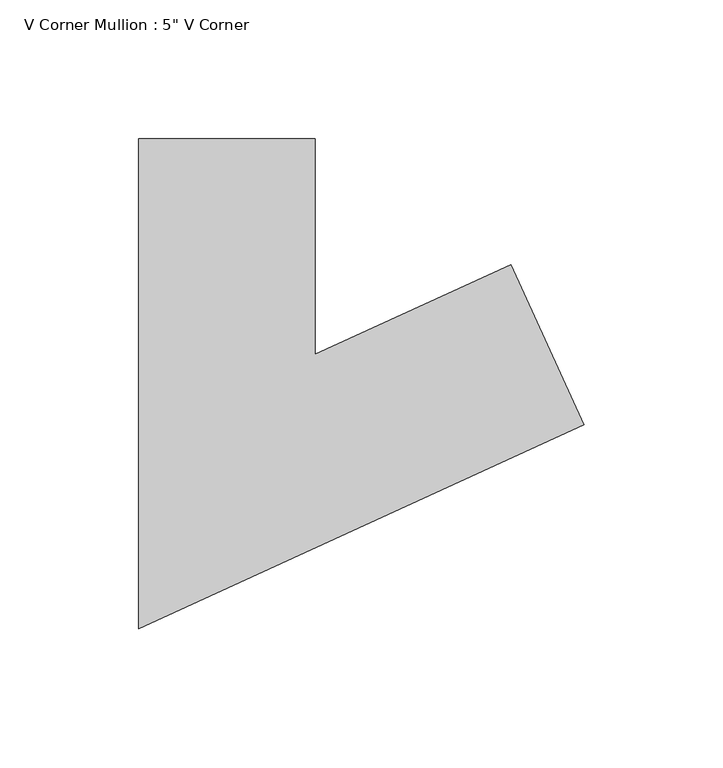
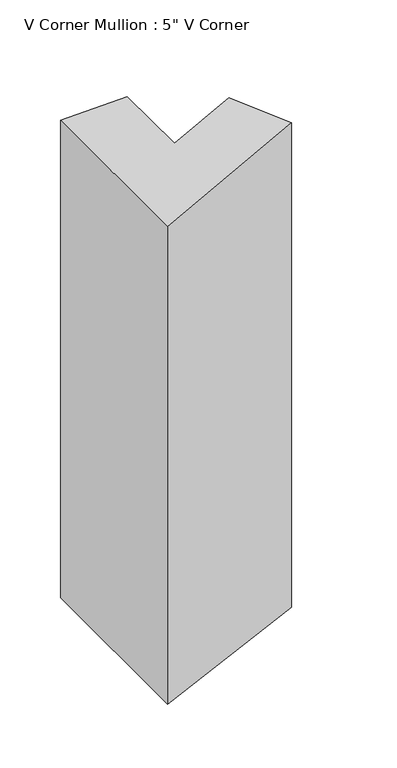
"""IFC4 building model written with IfcOpenShell, lengths in millimetres: member geometry."""

from ifc_helpers import new_model, si_unit, origin, place, context, project, spatial, faceted_brep, source, transform, mapped, element, save


def member_515de703(model_context):
    return source(origin(), model_context, "Body", "Brep", [
        faceted_brep([(61.49523, 18.2208415, 1.4130597), (87.9205542, -39.5195451, 2.0202703), (87.9205542, -39.5195451, -484.8655243), (61.49523, 18.2208415, -484.3241999), (-9.0228811, -14.0523047, -0.207331), (-9.0228811, -14.0523047, -482.8796321), (-9.0228811, 63.5, -0.207331), (-9.0228811, 63.5, -482.8796321), (-72.5228811, 63.5, -1.666457), (-72.5228811, 63.5, -481.5788308), (-72.5228811, -112.9476953, -1.666457), (-72.5228811, -112.9476953, -481.5788308)], [[[0, 1, 2, 3]], [[4, 0, 3, 5]], [[6, 4, 5, 7]], [[8, 6, 7, 9]], [[10, 8, 9, 11]], [[1, 10, 11, 2]], [[1, 0, 4, 6, 8, 10]], [[2, 11, 9, 7, 5, 3]]]),
    ])


if __name__ == "__main__":
    model = new_model("IFC4")
    model_context = context("Model", 3, world=origin())
    ifc_project = project(units=[si_unit("LENGTHUNIT", "METRE", prefix="MILLI")], contexts=[model_context])
    site = spatial("IfcSite", under=ifc_project)
    building = spatial("IfcBuilding", under=site)
    placement = place(None, origin())
    member_shape = member_515de703(model_context)
    element("IfcMember", 1, ObjectType="V Corner Mullion : 5\" V Corner", at=placement, inside=building, context=model_context, shape_type="MappedRepresentation", body=[
        mapped(member_shape, transform((0.0, 0.0, 0.0), x_axis=(1.0, 0.0, 0.0), y_axis=(0.0, 1.0, 0.0), z_axis=(0.0, 0.0, 1.0))),
    ])
    save(model, "model.ifc")
